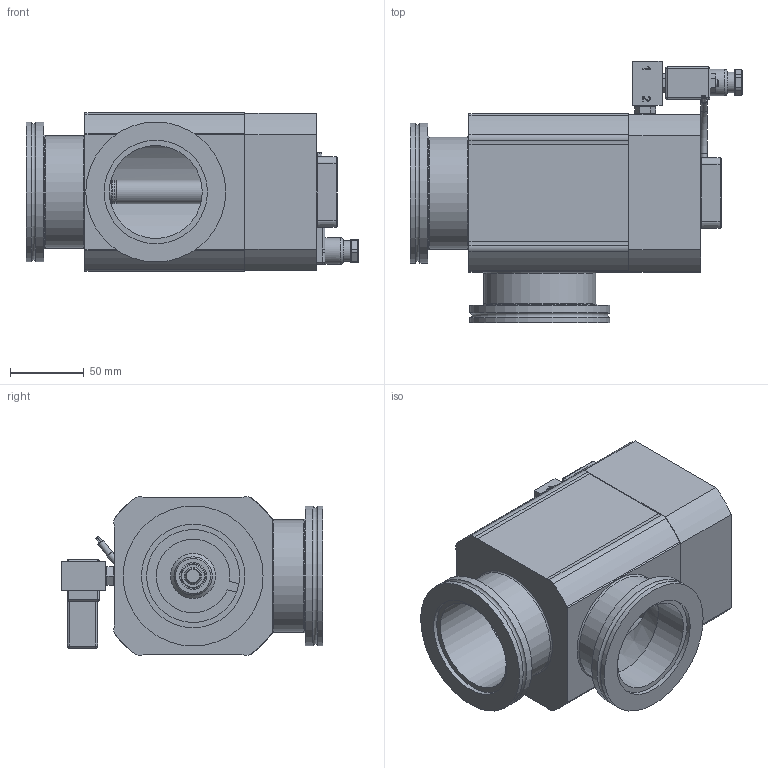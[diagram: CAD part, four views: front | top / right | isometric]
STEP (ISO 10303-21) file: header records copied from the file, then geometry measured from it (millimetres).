
FILE_DESCRIPTION(/* description */ (''),/* implementation_level */ '2;1');
FILE_NAME(/* name */ '1362573163_203.stp',/* time_stamp */ '2012-08-09T09:28:02+02:00',/* author */ (''),/* organization */ (''),/* preprocessor_version */ 'ST-DEVELOPER v11',/* originating_system */ 'SIEMENS PLM Software NX 7.5',/* authorisation */ '');
FILE_SCHEMA (('AP203_CONFIGURATION_CONTROLLED_3D_DESIGN_OF_MECHANICAL_PARTS_AND_ASSEMBLIES_MIM_LF'));
Length unit declared in the file: millimetre
Products named in the file (18): 467863; 467864; 414761_17995ID; 421306; 233359; 236204_1.1; n-7604-110; 326371.1; 415266; 243267.7; 259415.2; N-6013-443.2; 224796.1; 459840_MODEL; 421285; n-8501-300_MODELNX-ARRAGMNTArrangement 1; 461026; 459283
Assembly tree (22 placements, depth 4):
  459283
    224796.1  x4
    N-6013-443.2  x2
    259415.2
    243267.7
    415266
    461026
      326371.1
      n-7604-110
      n-8501-300_MODELNX-ARRAGMNTArrangement 1
        467864
        467863
    421285
      236204_1.1  x2
      233359
      421306
    459840_MODEL
      414761_17995ID
Bounding box: 225.1 x 177.5 x 107.6 mm (x, y, z)
Volume: 1003298.1 mm3; surface area: 257630.9 mm2
Topology: 26 solids, 26 shells, 816 faces, 1990 edges, 1282 vertices
Faces by surface type: plane 456, cylinder 206, cone 73, torus 38, bspline 21, sphere 12, extrusion 10
Full cylindrical faces by diameter (mm): 1.4 x4, 3 x8, 3.1 x1, 3.3 x2, 4 x3, 4.16 x4, 4.2 x8, 4.5 x4, 4.6 x1, 4.7 x2, 5 x9, 5.5 x5, 5.6 x2, 7 x1, 7.4 x1, 7.5 x2, 8 x1, 8.5 x5, 8.566 x1, 9 x2, 9.728 x2, 10 x4, 10.1 x1, 12 x1, 14 x1, 15.975 x3, 16 x1, 16.5 x2, 18 x1, 18.18 x1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
Entity records: 24753 total; most frequent: CARTESIAN_POINT 5329, DIRECTION 3356, ORIENTED_EDGE 3166, EDGE_CURVE 1583, AXIS2_PLACEMENT_3D 1220, VERTEX_POINT 1121, EDGE_LOOP 1002, VECTOR 916
